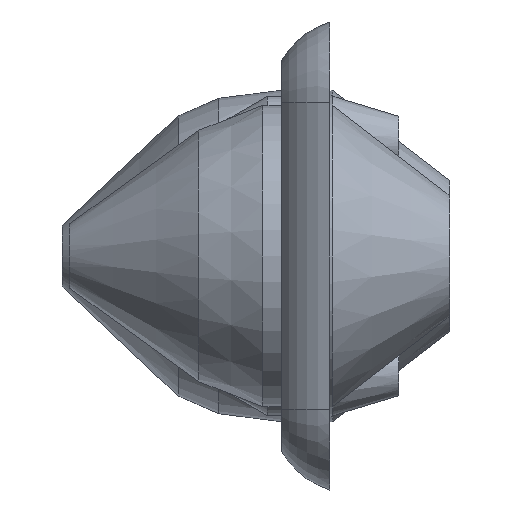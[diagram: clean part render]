
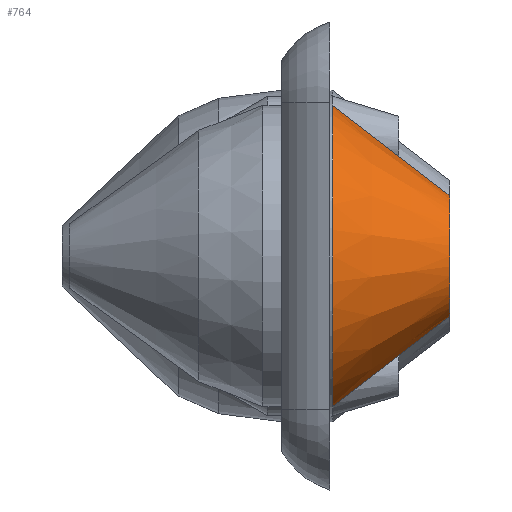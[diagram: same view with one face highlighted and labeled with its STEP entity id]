
A CAD part, left-side view. The second image highlights one B-rep face of the part: STEP entity #764.
In plain terms, the highlighted conical face has half-angle 37.607 degrees and reference radius 11.82 mm.
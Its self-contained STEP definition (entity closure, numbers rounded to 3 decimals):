
#246 = EDGE_CURVE ( 'NONE', #3206, #3376, #4469, .T. ) ;
#592 = ORIENTED_EDGE ( 'NONE', *, *, #1335, .T. ) ;
#611 = ORIENTED_EDGE ( 'NONE', *, *, #2395, .T. ) ;
#640 = ORIENTED_EDGE ( 'NONE', *, *, #2388, .F. ) ;
#667 = ORIENTED_EDGE ( 'NONE', *, *, #246, .F. ) ;
#764 = ADVANCED_FACE ( 'NONE', ( #4635 ), #4640, .T. ) ;
#879 = DIRECTION ( 'NONE',  ( 0., 0.792, -0.61 ) ) ;
#881 = CARTESIAN_POINT ( 'NONE',  ( 44.95, -25.5, -57.52 ) ) ;
#1056 = AXIS2_PLACEMENT_3D ( 'NONE', #1516, #1517, #1518 ) ;
#1060 = AXIS2_PLACEMENT_3D ( 'NONE', #1545, #1546, #1547 ) ;
#1335 = EDGE_CURVE ( 'NONE', #3207, #3302, #3824, .T. ) ;
#1516 = CARTESIAN_POINT ( 'NONE',  ( 44.95, -25.5, -45.7 ) ) ;
#1517 = DIRECTION ( 'NONE',  ( 0., -1., 0. ) ) ;
#1518 = DIRECTION ( 'NONE',  ( 0., 0., -1. ) ) ;
#1545 = CARTESIAN_POINT ( 'NONE',  ( 44.95, -2.5, -45.7 ) ) ;
#1546 = DIRECTION ( 'NONE',  ( 0., -1., 0. ) ) ;
#1547 = DIRECTION ( 'NONE',  ( 0., 0., -1. ) ) ;
#1816 = DIRECTION ( 'NONE',  ( 0., 0., 1. ) ) ;
#1820 = DIRECTION ( 'NONE',  ( 0., 1., 0. ) ) ;
#1839 = CARTESIAN_POINT ( 'NONE',  ( 44.95, -25.5, -45.7 ) ) ;
#2197 = CARTESIAN_POINT ( 'NONE',  ( 44.95, -25.5, -33.88 ) ) ;
#2199 = DIRECTION ( 'NONE',  ( 0., 0.792, 0.61 ) ) ;
#2388 = EDGE_CURVE ( 'NONE', #3207, #3206, #3941, .T. ) ;
#2395 = EDGE_CURVE ( 'NONE', #3302, #3376, #3926, .T. ) ;
#2436 = AXIS2_PLACEMENT_3D ( 'NONE', #1839, #1820, #1816 ) ;
#2779 = CARTESIAN_POINT ( 'NONE',  ( 44.95, -25.5, -57.52 ) ) ;
#2780 = CARTESIAN_POINT ( 'NONE',  ( 44.95, -25.5, -33.88 ) ) ;
#2875 = CARTESIAN_POINT ( 'NONE',  ( 44.95, -2.5, -16.163 ) ) ;
#2949 = CARTESIAN_POINT ( 'NONE',  ( 44.95, -2.5, -75.237 ) ) ;
#3206 = VERTEX_POINT ( 'NONE', #2779 ) ;
#3207 = VERTEX_POINT ( 'NONE', #2780 ) ;
#3302 = VERTEX_POINT ( 'NONE', #2875 ) ;
#3376 = VERTEX_POINT ( 'NONE', #2949 ) ;
#3824 = LINE ( 'NONE', #2197, #3827 ) ;
#3827 = VECTOR ( 'NONE', #2199, 1000. ) ;
#3926 = CIRCLE ( 'NONE', #1060, 29.537 ) ;
#3941 = CIRCLE ( 'NONE', #1056, 11.82 ) ;
#4342 = EDGE_LOOP ( 'NONE', ( #667, #640, #592, #611 ) ) ;
#4469 = LINE ( 'NONE', #881, #4471 ) ;
#4471 = VECTOR ( 'NONE', #879, 1000. ) ;
#4635 = FACE_OUTER_BOUND ( 'NONE', #4342, .T. ) ;
#4640 = CONICAL_SURFACE ( 'NONE', #2436, 11.82, 0.656 ) ;
